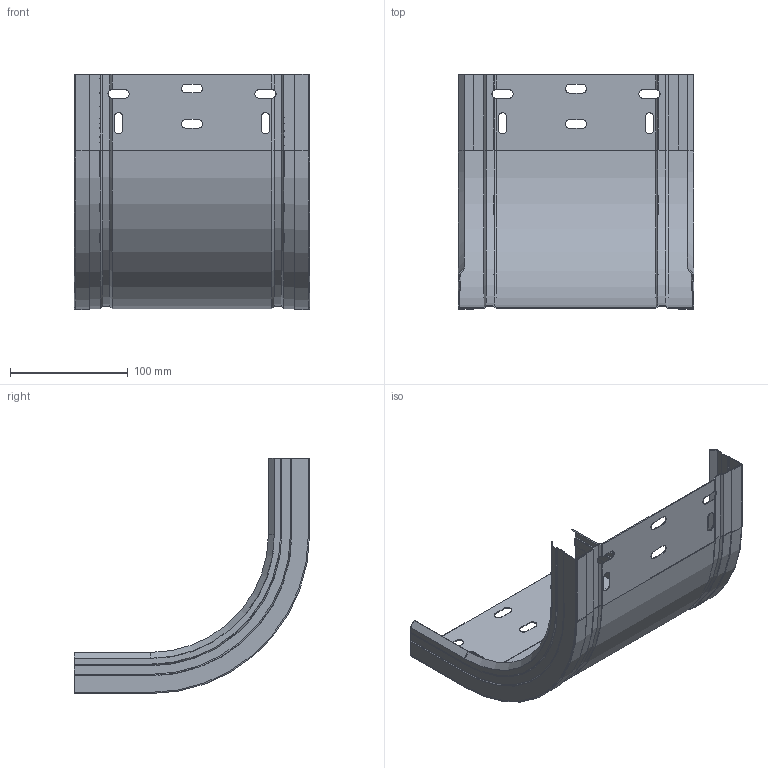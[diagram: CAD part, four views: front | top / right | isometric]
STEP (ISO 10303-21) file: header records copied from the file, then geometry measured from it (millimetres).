
FILE_DESCRIPTION (( 'STEP AP203' ), '1' );
FILE_NAME ('ERE_CONCAVA 200x35.step', '2023-07-27T18:53:25', ( '' ), ( '' ), 'SwSTEP 2.0', 'SolidWorks 2022', '' );
FILE_SCHEMA (( 'CONFIG_CONTROL_DESIGN' ));
Length unit declared in the file: millimetre
Products named in the file (3): ERE_CONCAVA 200x35; ERE_BASE CC_200x35; ERE_LATERAL CC_35
Assembly tree (3 placements, depth 2):
  ERE_CONCAVA 200x35
    ERE_BASE CC_200x35
    ERE_LATERAL CC_35  x2
Bounding box: 200 x 200 x 200 mm (x, y, z)
Volume: 78753.7 mm3; surface area: 199348.4 mm2
Topology: 3 solids, 3 shells, 216 faces, 582 edges, 364 vertices
Faces by surface type: plane 138, cylinder 52, cone 22, torus 4
Entity records: 5671 total; most frequent: CARTESIAN_POINT 978, ORIENTED_EDGE 928, DIRECTION 910, EDGE_CURVE 464, LINE 334, VECTOR 334, VERTEX_POINT 292, AXIS2_PLACEMENT_3D 288
